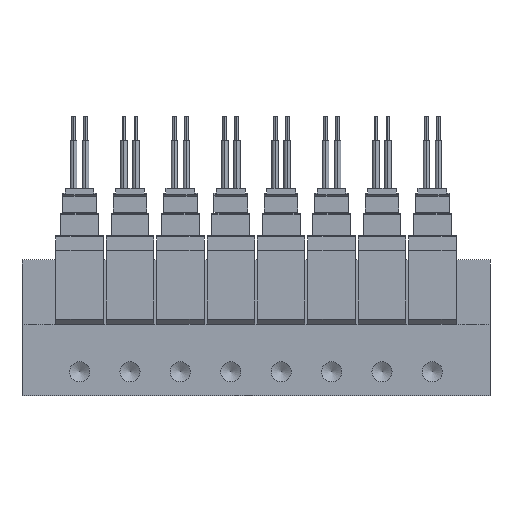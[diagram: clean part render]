
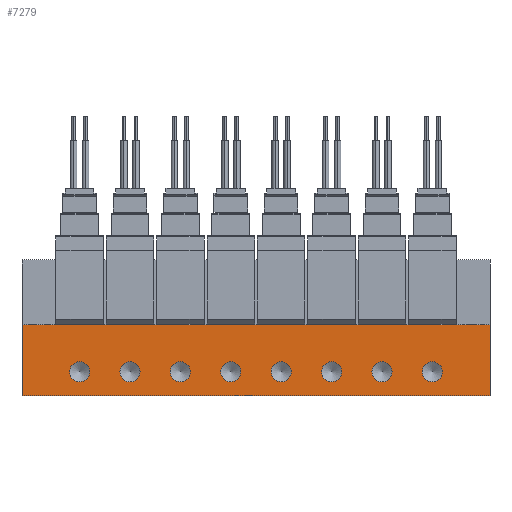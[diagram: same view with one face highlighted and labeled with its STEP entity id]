
A CAD part, front view. The second image highlights one B-rep face of the part: STEP entity #7279.
In plain terms, the highlighted planar face has unit normal (0, -1, 0).
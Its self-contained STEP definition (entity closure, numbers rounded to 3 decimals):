
#7279=ADVANCED_FACE('',(#11406,#11407,#11408,#11409,#11410,#11411,#11412,#11413,#11414),#11415,.F.);
#11406=FACE_BOUND('',#19702,.T.);
#11407=FACE_BOUND('',#19703,.T.);
#11408=FACE_BOUND('',#19704,.T.);
#11409=FACE_BOUND('',#19705,.T.);
#11410=FACE_BOUND('',#19706,.T.);
#11411=FACE_BOUND('',#19707,.T.);
#11412=FACE_BOUND('',#19708,.T.);
#11413=FACE_BOUND('',#19709,.T.);
#11414=FACE_OUTER_BOUND('',#19710,.T.);
#11415=PLANE('',#19711);
#19702=EDGE_LOOP('',(#30545));
#19703=EDGE_LOOP('',(#30546));
#19704=EDGE_LOOP('',(#30547));
#19705=EDGE_LOOP('',(#30548));
#19706=EDGE_LOOP('',(#30549));
#19707=EDGE_LOOP('',(#30550));
#19708=EDGE_LOOP('',(#30551));
#19709=EDGE_LOOP('',(#30552));
#19710=EDGE_LOOP('',(#30553,#30554,#30555,#30556));
#19711=AXIS2_PLACEMENT_3D('',#30557,#30558,#30559);
#30545=ORIENTED_EDGE('',*,*,#63088,.F.);
#30546=ORIENTED_EDGE('',*,*,#63089,.F.);
#30547=ORIENTED_EDGE('',*,*,#63090,.F.);
#30548=ORIENTED_EDGE('',*,*,#63091,.F.);
#30549=ORIENTED_EDGE('',*,*,#63092,.F.);
#30550=ORIENTED_EDGE('',*,*,#63093,.F.);
#30551=ORIENTED_EDGE('',*,*,#63094,.F.);
#30552=ORIENTED_EDGE('',*,*,#63095,.F.);
#30553=ORIENTED_EDGE('',*,*,#63083,.F.);
#30554=ORIENTED_EDGE('',*,*,#63096,.F.);
#30555=ORIENTED_EDGE('',*,*,#63048,.T.);
#30556=ORIENTED_EDGE('',*,*,#63087,.T.);
#30557=CARTESIAN_POINT('',(-97.5,0.,14.8));
#30558=DIRECTION('',(0.0,1.0,0.));
#30559=DIRECTION('',(0.0,0.,1.0));
#63048=EDGE_CURVE('',#73780,#73778,#73781,.T.);
#63083=EDGE_CURVE('',#73843,#73845,#73846,.T.);
#63087=EDGE_CURVE('',#73778,#73845,#73852,.T.);
#63088=EDGE_CURVE('',#73853,#73853,#73854,.T.);
#63089=EDGE_CURVE('',#73855,#73855,#73856,.T.);
#63090=EDGE_CURVE('',#73857,#73857,#73858,.T.);
#63091=EDGE_CURVE('',#73859,#73859,#73860,.T.);
#63092=EDGE_CURVE('',#73861,#73861,#73862,.T.);
#63093=EDGE_CURVE('',#73863,#73863,#73864,.T.);
#63094=EDGE_CURVE('',#73865,#73865,#73866,.T.);
#63095=EDGE_CURVE('',#73867,#73867,#73868,.T.);
#63096=EDGE_CURVE('',#73780,#73843,#73869,.T.);
#73778=VERTEX_POINT('',#91960);
#73780=VERTEX_POINT('',#91963);
#73781=LINE('',#91964,#91965);
#73843=VERTEX_POINT('',#92042);
#73845=VERTEX_POINT('',#92045);
#73846=LINE('',#92046,#92047);
#73852=LINE('',#92054,#92055);
#73853=VERTEX_POINT('',#92056);
#73854=CIRCLE('',#92057,2.1);
#73855=VERTEX_POINT('',#92058);
#73856=CIRCLE('',#92059,2.1);
#73857=VERTEX_POINT('',#92060);
#73858=CIRCLE('',#92061,2.1);
#73859=VERTEX_POINT('',#92062);
#73860=CIRCLE('',#92063,2.1);
#73861=VERTEX_POINT('',#92064);
#73862=CIRCLE('',#92065,2.1);
#73863=VERTEX_POINT('',#92066);
#73864=CIRCLE('',#92067,2.1);
#73865=VERTEX_POINT('',#92068);
#73866=CIRCLE('',#92069,2.1);
#73867=VERTEX_POINT('',#92070);
#73868=CIRCLE('',#92071,2.1);
#73869=LINE('',#92072,#92073);
#91960=CARTESIAN_POINT('',(-97.5,0.0,0.0));
#91963=CARTESIAN_POINT('',(-97.5,0.,14.8));
#91964=CARTESIAN_POINT('',(-97.5,0.,14.8));
#91965=VECTOR('',#117411,1.0);
#92042=CARTESIAN_POINT('',(0.0,0.,14.8));
#92045=CARTESIAN_POINT('',(0.0,0.0,0.0));
#92046=CARTESIAN_POINT('',(0.0,0.,14.8));
#92047=VECTOR('',#117482,1.0);
#92054=CARTESIAN_POINT('',(-97.5,0.0,0.0));
#92055=VECTOR('',#117490,1.0);
#92056=CARTESIAN_POINT('',(-85.5,0.,2.9));
#92057=AXIS2_PLACEMENT_3D('',#117491,#117492,#117493);
#92058=CARTESIAN_POINT('',(-75.0,0.,2.9));
#92059=AXIS2_PLACEMENT_3D('',#117494,#117495,#117496);
#92060=CARTESIAN_POINT('',(-64.5,0.,2.9));
#92061=AXIS2_PLACEMENT_3D('',#117497,#117498,#117499);
#92062=CARTESIAN_POINT('',(-54.0,0.,2.9));
#92063=AXIS2_PLACEMENT_3D('',#117500,#117501,#117502);
#92064=CARTESIAN_POINT('',(-43.5,0.,2.9));
#92065=AXIS2_PLACEMENT_3D('',#117503,#117504,#117505);
#92066=CARTESIAN_POINT('',(-33.0,0.,2.9));
#92067=AXIS2_PLACEMENT_3D('',#117506,#117507,#117508);
#92068=CARTESIAN_POINT('',(-22.5,0.,2.9));
#92069=AXIS2_PLACEMENT_3D('',#117509,#117510,#117511);
#92070=CARTESIAN_POINT('',(-12.0,0.,2.9));
#92071=AXIS2_PLACEMENT_3D('',#117512,#117513,#117514);
#92072=CARTESIAN_POINT('',(-97.5,0.,14.8));
#92073=VECTOR('',#117515,1.0);
#117411=DIRECTION('',(0.0,0.,-1.0));
#117482=DIRECTION('',(0.0,0.,-1.0));
#117490=DIRECTION('',(1.0,0.0,0.0));
#117491=CARTESIAN_POINT('',(-85.5,0.0,5.0));
#117492=DIRECTION('',(0.0,-1.0,0.));
#117493=DIRECTION('',(0.0,0.,-1.0));
#117494=CARTESIAN_POINT('',(-75.0,0.0,5.0));
#117495=DIRECTION('',(0.0,-1.0,0.));
#117496=DIRECTION('',(0.0,0.,-1.0));
#117497=CARTESIAN_POINT('',(-64.5,0.0,5.0));
#117498=DIRECTION('',(0.0,-1.0,0.));
#117499=DIRECTION('',(0.0,0.,-1.0));
#117500=CARTESIAN_POINT('',(-54.0,0.0,5.0));
#117501=DIRECTION('',(0.0,-1.0,0.));
#117502=DIRECTION('',(0.0,0.,-1.0));
#117503=CARTESIAN_POINT('',(-43.5,0.0,5.0));
#117504=DIRECTION('',(0.0,-1.0,0.));
#117505=DIRECTION('',(0.0,0.,-1.0));
#117506=CARTESIAN_POINT('',(-33.0,0.0,5.0));
#117507=DIRECTION('',(0.0,-1.0,0.));
#117508=DIRECTION('',(0.0,0.,-1.0));
#117509=CARTESIAN_POINT('',(-22.5,0.0,5.0));
#117510=DIRECTION('',(0.0,-1.0,0.));
#117511=DIRECTION('',(0.0,0.,-1.0));
#117512=CARTESIAN_POINT('',(-12.0,0.0,5.0));
#117513=DIRECTION('',(0.0,-1.0,0.));
#117514=DIRECTION('',(0.0,0.,-1.0));
#117515=DIRECTION('',(1.0,0.0,0.0));
